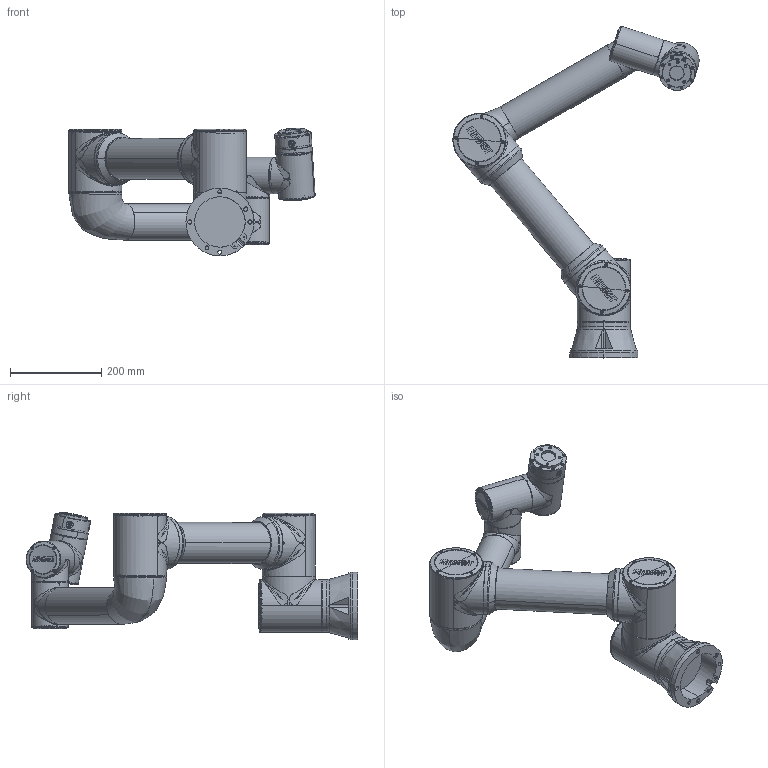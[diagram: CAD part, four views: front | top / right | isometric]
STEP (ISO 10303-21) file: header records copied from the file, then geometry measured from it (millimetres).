
FILE_DESCRIPTION (( 'STEP AP214' ), '1' );
FILE_NAME ('S922Íâ·¢Ä£ÐÍV3.0 20240429.STEP', '2024-04-29T07:25:19', ( '' ), ( '' ), 'SwSTEP 2.0', 'SolidWorks 2022', '' );
FILE_SCHEMA (( 'AUTOMOTIVE_DESIGN' ));
Length unit declared in the file: millimetre
Products named in the file (8): S922-7; S922-4_默认<按加工>; S922-1; S922-5_默认<按加工>; S922-2_默认<按加工>; S922-3_默认<按加工>; S922-6_默认<按加工>; S922俋楷耀倰V3.0 20240429
Assembly tree (7 placements, depth 2):
  S922俋楷耀倰V3.0 20240429
    S922-1
    S922-2_默认<按加工>
    S922-3_默认<按加工>
    S922-4_默认<按加工>
    S922-5_默认<按加工>
    S922-6_默认<按加工>
    S922-7
Bounding box: 539.88 x 727.58 x 280.51 mm (x, y, z)
Volume: 11844049.3 mm3; surface area: 769622.2 mm2
Topology: 37 solids, 58 shells, 2903 faces, 7083 edges, 4454 vertices
Faces by surface type: bspline 1114, plane 772, cylinder 766, cone 133, sphere 78, torus 40
Entity records: 253521 total; most frequent: CARTESIAN_POINT 180029, ORIENTED_EDGE 14092, DIRECTION 9131, EDGE_CURVE 7046, VERTEX_POINT 4445, AXIS2_PLACEMENT_3D 3590, EDGE_LOOP 3163, B_SPLINE_CURVE_WITH_KNOTS 3074
